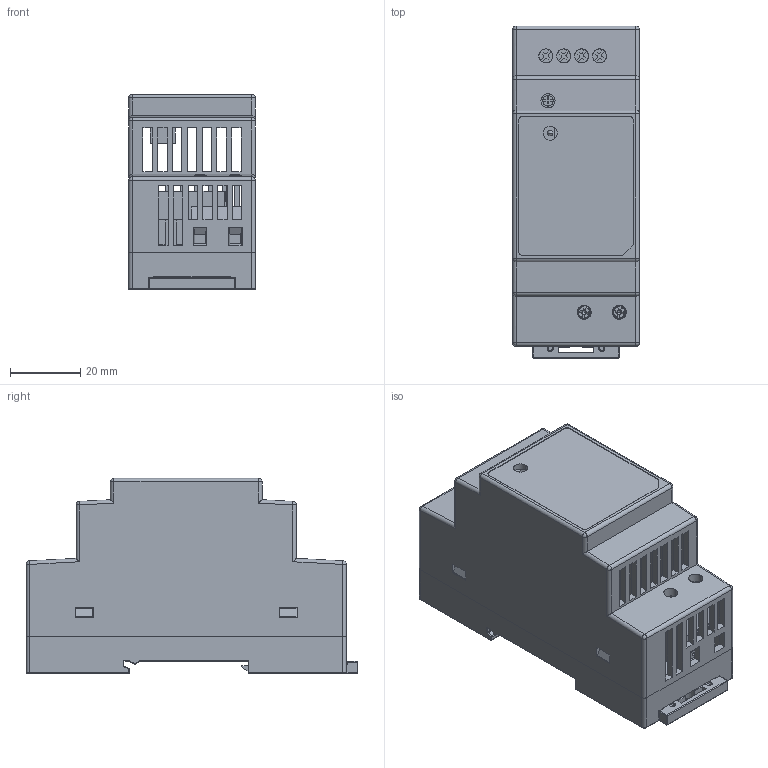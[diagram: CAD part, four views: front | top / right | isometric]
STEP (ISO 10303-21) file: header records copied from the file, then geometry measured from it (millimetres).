
FILE_DESCRIPTION((''),'2;1');
FILE_NAME('ASM000_ASM','2021-01-19T10:10:27',('danae.lavaud'),(''),'CREO PARAMETRIC BY PTC INC, 2018260','CREO PARAMETRIC BY PTC INC, 2018260','');
FILE_SCHEMA(('AUTOMOTIVE_DESIGN { 1 0 10303 214 1 1 1 1 }'));
Products named in the file (17): 330000050TPS_CHASSIS_S5_1_8; 330000049TPS_COVER_S4_1_10; EE_LED_2301751531_1_3; EE_VR_0604101305_1_3; 307301497W_MB342-100M02A302_1_3; 307301297W_MB420-508MA02_1_7; 307301297W_ASM0001_ASM_1_ASM_14_ASM; 307301297W_CN2_ASM_1_ASM_7_ASM; ASSY_DC-BOARD_ASM_1_ASM_1_ASM; ASSY_MAINBOARD_ASM_1_ASM_1_ASM; PRT0001_1_1; 3471827300_REVISE1-MODIFY-KY201_ASM; 348634860000_1_1_1_2; DRC-24V30W_ASM_1_ASM_7_ASM; PRT0001_FORSE_ASM_1_ASM_3_ASM; ABL_MODULAR30W_3DCAD_ASM; ASM000_ASM
Assembly tree (17 placements, depth 9):
  ASM000_ASM
    ABL_MODULAR30W_3DCAD_ASM
      PRT0001_FORSE_ASM_1_ASM_3_ASM
        DRC-24V30W_ASM_1_ASM_7_ASM
          330000050TPS_CHASSIS_S5_1_8
          330000049TPS_COVER_S4_1_10
          ASSY_MAINBOARD_ASM_1_ASM_1_ASM
            EE_LED_2301751531_1_3
            EE_VR_0604101305_1_3
            ASSY_DC-BOARD_ASM_1_ASM_1_ASM
              307301497W_MB342-100M02A302_1_3
              307301297W_CN2_ASM_1_ASM_7_ASM
                307301297W_ASM0001_ASM_1_ASM_14_ASM  x2
                  307301297W_MB420-508MA02_1_7
          3471827300_REVISE1-MODIFY-KY201_ASM
            PRT0001_1_1
          348634860000_1_1_1_2
Bounding box: 36 x 94.3 x 55.5 mm (x, y, z)
Volume: 41214.1 mm3; surface area: 45626.7 mm2
Topology: 9 solids, 9 shells, 1955 faces, 5403 edges, 3530 vertices
Faces by surface type: plane 1244, cylinder 305, extrusion 272, torus 59, cone 41, sphere 30, bspline 4
Entity records: 58694 total; most frequent: CARTESIAN_POINT 12880, ORIENTED_EDGE 8618, DIRECTION 7596, EDGE_CURVE 4309, VECTOR 3226, LINE 3089, VERTEX_POINT 2818, AXIS2_PLACEMENT_3D 2185
